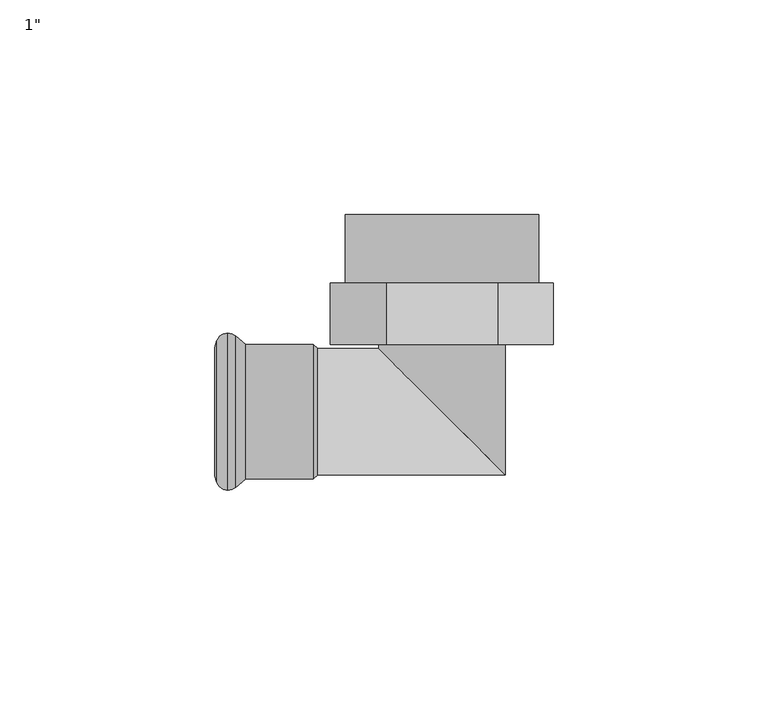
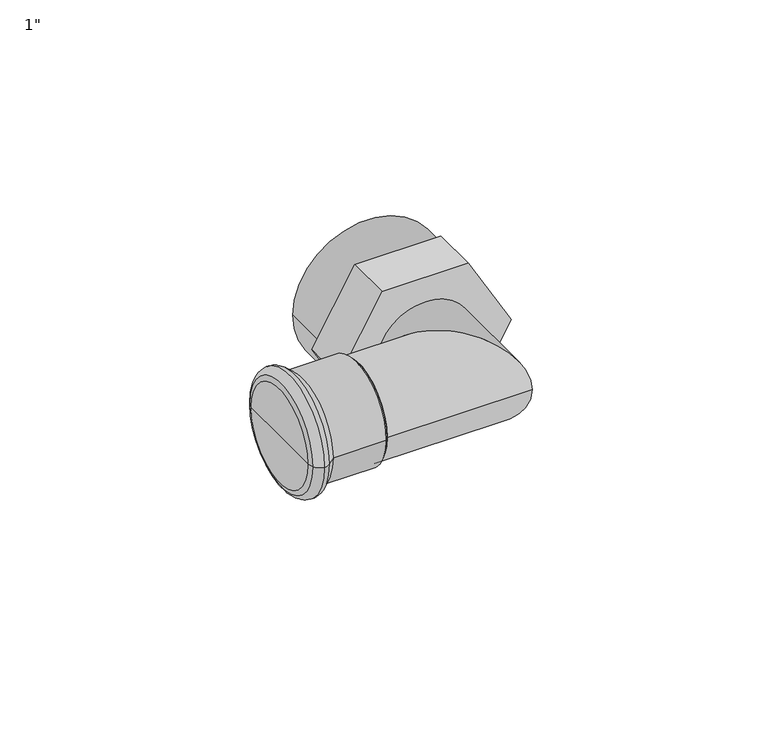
"""IFC4 building model written with IfcOpenShell, lengths in millimetres: pipe fitting geometry."""

from ifc_helpers import new_model, si_unit, point, frame, origin, origin_2d, place, context, project, spatial, polyline, circle_curve, ellipse_curve, trimmed, segment, composite_curve, outline, extrude, source, transform, mapped, element, save
from ifc_brep_helpers import plane_surface, cylinder_surface, revolved_surface, advanced_brep


def pipe_fitting_fd26fefa(model_context):
    return source(origin(), model_context, "Body", "SolidModel", [
        advanced_brep(
        [(-14.7, 15.7, 0.0), (14.7, 15.7, 0.0), (-14.7, 14.7, 0.0), (14.7, -14.7, 0.0), (-29.0, 14.7, 0.0), (-29.0, -14.7, 0.0)],
        [
            (0, 1, circle_curve(frame((0.0, 15.7, 0.0), z_axis=(0.0, 1.0, 0.0), x_axis=(1.0, 0.0, 0.0)), 14.7)),
            (1, 0, circle_curve(frame((0.0, 15.7, 0.0), z_axis=(0.0, 1.0, 0.0), x_axis=(1.0, 0.0, 0.0)), 14.7)),
            (0, 2),
            (2, 3, ellipse_curve(frame((0.0, 0.0, 0.0), z_axis=(0.7071067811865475, 0.7071067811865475, 0.0), x_axis=(-0.7071067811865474, 0.7071067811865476, 0.0)), 20.7889394, 14.7)),
            (3, 1),
            (3, 2, ellipse_curve(frame((0.0, 0.0, 0.0), z_axis=(0.7071067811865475, 0.7071067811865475, 0.0), x_axis=(-0.7071067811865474, 0.7071067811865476, 0.0)), 20.7889394, 14.7)),
            (4, 5, circle_curve(frame((-29.0, 0.0, 0.0), z_axis=(-1.0, 0.0, 0.0), x_axis=(0.0, -1.0, 0.0)), 14.7)),
            (5, 4, circle_curve(frame((-29.0, 0.0, 0.0), z_axis=(-1.0, 0.0, 0.0), x_axis=(0.0, -1.0, 0.0)), 14.7)),
            (2, 4),
            (5, 3),
        ],
        [
            plane_surface(frame((0.0, 15.7, 0.0), z_axis=(0.0, 1.0, 0.0), x_axis=(0.0, 0.0, 1.0))),
            cylinder_surface(frame((0.0, 15.7, 0.0), z_axis=(0.0, 1.0, 0.0), x_axis=(1.0, 0.0, 0.0)), 14.7),
            plane_surface(frame((-29.0, 0.0, 0.0), z_axis=(-1.0, 0.0, 0.0), x_axis=(0.0, 0.0, 1.0))),
            cylinder_surface(frame((0.0, 0.0, 0.0), z_axis=(1.0, 0.0, 0.0), x_axis=(0.0, -1.0, 0.0)), 14.7),
        ],
        [
            (0, [[1, 2]]),
            (1, [[-1, 3, 4, 5]]),
            (1, [[-2, -5, 6, -3]]),
            (2, [[7, 8]]),
            (3, [[-4, 9, -8, 10]]),
            (3, [[-6, -10, -7, -9]]),
        ],
    ),
        extrude(outline(polyline([(0.0, 25.9807621), (22.5, 12.9903811), (22.5, -12.9903811), (0.0, -25.9807621), (-22.5, -12.9903811), (-22.5, 12.9903811), (0.0, 25.9807621)])), frame((0.0, 15.7, 0.0), z_axis=(0.0, 1.0, 0.0), x_axis=(0.0, 0.0, 1.0)), (0.0, 0.0, 1.0), 14.3),
        extrude(outline(composite_curve([segment(trimmed(circle_curve(origin_2d(), 22.5), [point((0.0, 22.5))], [point((0.0, -22.5))], False, "CARTESIAN"), True, "CONTINUOUS"), segment(trimmed(circle_curve(origin_2d(), 22.5), [point((0.0, -22.5))], [point((0.0, 22.5))], False, "CARTESIAN"), True, "CONTINUOUS")], self_intersect=False)), frame((0.0, 30.0, 0.0), z_axis=(0.0, 1.0, 0.0), x_axis=(0.0, 0.0, 1.0)), (0.0, 0.0, 1.0), 16.0),
        advanced_brep(
        [(-45.7838092, -15.7, 0.0), (-45.7838092, 15.7, 0.0), (-30.0, 15.7, 0.0), (-30.0, -15.7, 0.0), (-48.0922627, -17.6370225, 0.0), (-48.0922627, 17.6370225, 0.0), (-49.8921278, -18.325, 0.0), (-49.8921278, 18.325, 0.0), (-52.432052, -16.5484544, 0.0), (-52.432052, 16.5484544, 0.0), (-53.0, -14.9880302, 0.0), (-53.0, 14.9880302, 0.0), (-53.0, 0.0, 0.0), (-29.0, 14.7, 0.0), (-29.0, -14.7, 0.0), (-29.0, 0.0, 0.0)],
        [
            (0, 1, circle_curve(frame((-45.7838092, 0.0, 0.0), z_axis=(1.0, 0.0, 0.0), x_axis=(0.0, 1.0, 0.0)), 15.7)),
            (1, 2),
            (2, 3, circle_curve(frame((-30.0, 0.0, 0.0), z_axis=(-1.0, 0.0, 0.0), x_axis=(0.0, 1.0, 0.0)), 15.7)),
            (3, 0),
            (1, 0, circle_curve(frame((-45.7838092, 0.0, 0.0), z_axis=(1.0, 0.0, 0.0), x_axis=(0.0, 1.0, 0.0)), 15.7)),
            (3, 2, circle_curve(frame((-30.0, 0.0, 0.0), z_axis=(-1.0, 0.0, 0.0), x_axis=(0.0, 1.0, 0.0)), 15.7)),
            (4, 5, circle_curve(frame((-48.0922627, 0.0, 0.0), z_axis=(1.0, 0.0, 0.0), x_axis=(0.0, 1.0, 0.0)), 17.6370225)),
            (5, 1),
            (0, 4),
            (5, 4, circle_curve(frame((-48.0922627, 0.0, 0.0), z_axis=(1.0, 0.0, 0.0), x_axis=(0.0, 1.0, 0.0)), 17.6370225)),
            (6, 7, circle_curve(frame((-49.8921278, 0.0, 0.0), z_axis=(1.0, 0.0, 0.0), x_axis=(0.0, 1.0, 0.0)), 18.325)),
            (7, 5, circle_curve(frame((-49.8935049, 15.6230333, 0.0), z_axis=(0.0, 0.0, -1.0), x_axis=(1.0, 0.0, 0.0)), 2.701967)),
            (4, 6, circle_curve(frame((-49.8935049, -15.6230333, 0.0), z_axis=(0.0, 0.0, -1.0), x_axis=(1.0, 0.0, 0.0)), 2.701967)),
            (7, 6, circle_curve(frame((-49.8921278, 0.0, 0.0), z_axis=(1.0, 0.0, 0.0), x_axis=(0.0, 1.0, 0.0)), 18.325)),
            (8, 9, circle_curve(frame((-52.432052, 0.0, 0.0), z_axis=(1.0, 0.0, 0.0), x_axis=(0.0, 1.0, 0.0)), 16.5484544)),
            (9, 7, circle_curve(frame((-49.89488, 15.6249993, 0.0), z_axis=(0.0, 0.0, -1.0), x_axis=(1.0, 0.0, 0.0)), 2.7000021)),
            (6, 8, circle_curve(frame((-49.89488, -15.6249993, 0.0), z_axis=(0.0, 0.0, -1.0), x_axis=(1.0, 0.0, 0.0)), 2.7000021)),
            (9, 8, circle_curve(frame((-52.432052, 0.0, 0.0), z_axis=(1.0, 0.0, 0.0), x_axis=(0.0, 1.0, 0.0)), 16.5484544)),
            (10, 11, circle_curve(frame((-53.0, 0.0, 0.0), z_axis=(1.0, 0.0, 0.0), x_axis=(0.0, 1.0, 0.0)), 14.9880302)),
            (11, 9),
            (8, 10),
            (11, 10, circle_curve(frame((-53.0, 0.0, 0.0), z_axis=(1.0, 0.0, 0.0), x_axis=(0.0, 1.0, 0.0)), 14.9880302)),
            (12, 11),
            (10, 12),
            (2, 13),
            (13, 14, circle_curve(frame((-29.0, 0.0, 0.0), z_axis=(-1.0, 0.0, 0.0), x_axis=(0.0, 1.0, 0.0)), 14.7)),
            (14, 3),
            (14, 13, circle_curve(frame((-29.0, 0.0, 0.0), z_axis=(-1.0, 0.0, 0.0), x_axis=(0.0, 1.0, 0.0)), 14.7)),
            (13, 15),
            (15, 14),
        ],
        [
            cylinder_surface(frame((1334.742668, 0.0, 0.0), z_axis=(-1.0, 0.0, 0.0), x_axis=(0.0, 1.0, 0.0)), 15.7),
            revolved_surface(polyline([(-45.7838092, 15.7, 0.0), (-48.0922627, 17.6370225, 0.0)]), (1334.742668, 0.0, 0.0), (-1.0, 0.0, 0.0)),
            revolved_surface(trimmed(ellipse_curve(frame((-49.8935049, 15.6230333, 0.0), z_axis=(0.0, 0.0, 1.0), x_axis=(1.0, 0.0, 0.0)), 2.701967, 2.701967), [point((-48.0922627, 17.6370225, 0.0))], [point((-49.8921278, 18.325, 0.0))], True, "CARTESIAN"), (1334.742668, 0.0, 0.0), (-1.0, 0.0, 0.0)),
            revolved_surface(trimmed(ellipse_curve(frame((-49.89488, 15.6249993, 0.0), z_axis=(0.0, 0.0, 1.0), x_axis=(1.0, 0.0, 0.0)), 2.7000021, 2.7000021), [point((-49.8921278, 18.325, 0.0))], [point((-52.432052, 16.5484544, 0.0))], True, "CARTESIAN"), (1334.742668, 0.0, 0.0), (-1.0, 0.0, 0.0)),
            revolved_surface(polyline([(-52.432052, 16.5484544, 0.0), (-53.0, 14.9880302, 0.0)]), (1334.742668, 0.0, 0.0), (-1.0, 0.0, 0.0)),
            plane_surface(frame((-53.0, 0.0, 0.0), z_axis=(-1.0, 0.0, 0.0), x_axis=(0.0, 1.0, 0.0))),
            revolved_surface(polyline([(-29.0, 14.7, 0.0), (-30.0, 15.7, 0.0)]), (1334.742668, 0.0, 0.0), (-1.0, 0.0, 0.0)),
            plane_surface(frame((-29.0, 0.0, 0.0), z_axis=(1.0, 0.0, 0.0), x_axis=(0.0, 1.0, 0.0))),
        ],
        [
            (0, [[1, 2, 3, 4]]),
            (0, [[5, -4, 6, -2]]),
            (1, [[7, 8, -1, 9]]),
            (1, [[10, -9, -5, -8]]),
            (2, [[11, 12, -7, 13]]),
            (2, [[14, -13, -10, -12]]),
            (3, [[15, 16, -11, 17]]),
            (3, [[18, -17, -14, -16]]),
            (4, [[19, 20, -15, 21]]),
            (4, [[22, -21, -18, -20]]),
            (5, [[23, -19, 24]]),
            (5, [[-24, -22, -23]]),
            (6, [[-3, 25, 26, 27]]),
            (6, [[-6, -27, 28, -25]]),
            (7, [[-26, 29, 30]]),
            (7, [[-28, -30, -29]]),
        ],
    ),
    ])


if __name__ == "__main__":
    model = new_model("IFC4")
    model_context = context("Model", 3, world=origin())
    ifc_project = project(units=[si_unit("LENGTHUNIT", "METRE", prefix="MILLI")], contexts=[model_context])
    site = spatial("IfcSite", under=ifc_project)
    building = spatial("IfcBuilding", under=site)
    placement = place(None, origin())
    pipe_fitting_shape = pipe_fitting_fd26fefa(model_context)
    element("IfcPipeFitting", 1, ObjectType="KAN-therm Inox kolano z GZ : 1\"", at=placement, inside=building, context=model_context, shape_type="MappedRepresentation", body=[
        mapped(pipe_fitting_shape, transform((0.0, 0.0, 0.0), x_axis=(1.0, 0.0, 0.0), y_axis=(0.0, 1.0, 0.0), z_axis=(0.0, 0.0, 1.0))),
    ])
    save(model, "model.ifc")
